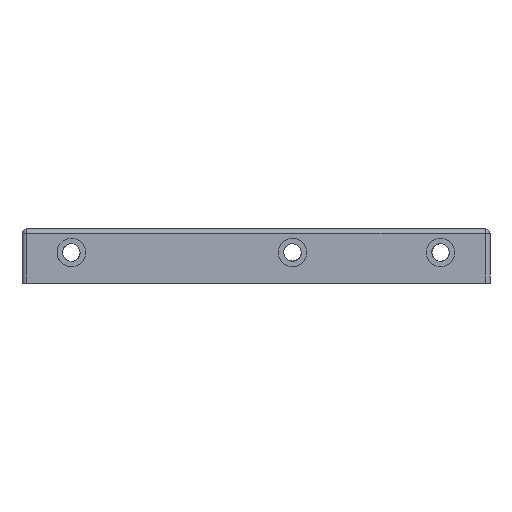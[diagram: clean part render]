
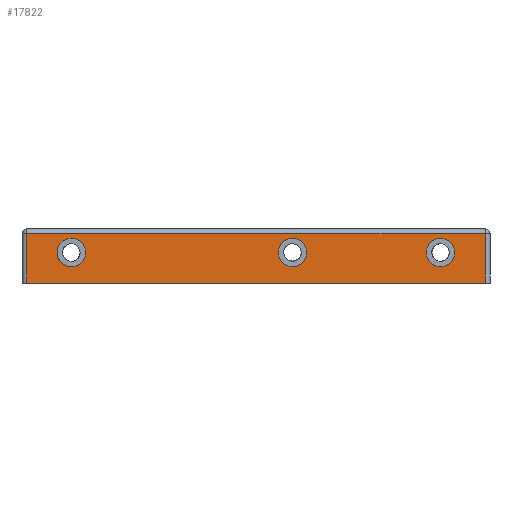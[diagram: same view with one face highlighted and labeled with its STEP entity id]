
A CAD part, front view. The second image highlights one B-rep face of the part: STEP entity #17822.
In plain terms, the highlighted planar face has unit normal (0, -1, 0).
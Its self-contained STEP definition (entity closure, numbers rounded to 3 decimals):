
#341 = EDGE_CURVE ( 'NONE', #18369, #2659, #41709, .T. ) ;
#392 = CARTESIAN_POINT ( 'NONE',  ( 1226.064, 1236.778, -1.5 ) ) ;
#1895 = DIRECTION ( 'NONE',  ( 0., 1., 0. ) ) ;
#2071 = PLANE ( 'NONE',  #11692 ) ;
#2351 = CARTESIAN_POINT ( 'NONE',  ( 1240.064, 1236.778, -2.9 ) ) ;
#2618 = AXIS2_PLACEMENT_3D ( 'NONE', #7097, #17295, #7697 ) ;
#2659 = VERTEX_POINT ( 'NONE', #38973 ) ;
#2923 = CARTESIAN_POINT ( 'NONE',  ( 1370.064, 1236.778, -17. ) ) ;
#3004 = LINE ( 'NONE', #35906, #9703 ) ;
#3936 = CIRCLE ( 'NONE', #13281, 4.5 ) ;
#5185 = EDGE_LOOP ( 'NONE', ( #14772, #9771, #19480, #28930 ) ) ;
#5451 = CIRCLE ( 'NONE', #40383, 4.5 ) ;
#5649 = FACE_BOUND ( 'NONE', #33309, .T. ) ;
#6291 = ORIENTED_EDGE ( 'NONE', *, *, #22709, .T. ) ;
#6331 = EDGE_CURVE ( 'NONE', #10275, #10275, #5451, .T. ) ;
#7097 = CARTESIAN_POINT ( 'NONE',  ( 1356.064, 1236.778, -7.4 ) ) ;
#7697 = DIRECTION ( 'NONE',  ( 0., 0., 1. ) ) ;
#8697 = VECTOR ( 'NONE', #34774, 1000. ) ;
#8982 = DIRECTION ( 'NONE',  ( 0., 0., -1. ) ) ;
#9703 = VECTOR ( 'NONE', #36051, 1000. ) ;
#9771 = ORIENTED_EDGE ( 'NONE', *, *, #11172, .T. ) ;
#10275 = VERTEX_POINT ( 'NONE', #42127 ) ;
#11172 = EDGE_CURVE ( 'NONE', #12165, #20414, #26910, .T. ) ;
#11692 = AXIS2_PLACEMENT_3D ( 'NONE', #41848, #32512, #8982 ) ;
#12165 = VERTEX_POINT ( 'NONE', #19137 ) ;
#12643 = ORIENTED_EDGE ( 'NONE', *, *, #6331, .T. ) ;
#12965 = EDGE_CURVE ( 'NONE', #27453, #27453, #3936, .T. ) ;
#13281 = AXIS2_PLACEMENT_3D ( 'NONE', #30356, #30213, #30061 ) ;
#14014 = EDGE_LOOP ( 'NONE', ( #6291 ) ) ;
#14510 = VECTOR ( 'NONE', #28951, 1000. ) ;
#14772 = ORIENTED_EDGE ( 'NONE', *, *, #18753, .T. ) ;
#14940 = DIRECTION ( 'NONE',  ( 0., 0., -1. ) ) ;
#15411 = CARTESIAN_POINT ( 'NONE',  ( 1356.064, 1236.778, -2.9 ) ) ;
#17295 = DIRECTION ( 'NONE',  ( 0., 1., 0. ) ) ;
#17822 = ADVANCED_FACE ( 'NONE', ( #25881, #5649, #20677, #26898 ), #2071, .T. ) ;
#18117 = CARTESIAN_POINT ( 'NONE',  ( 1309.564, 1236.778, -7.4 ) ) ;
#18369 = VERTEX_POINT ( 'NONE', #392 ) ;
#18625 = EDGE_CURVE ( 'NONE', #20414, #2659, #20089, .T. ) ;
#18753 = EDGE_CURVE ( 'NONE', #18369, #12165, #3004, .T. ) ;
#19137 = CARTESIAN_POINT ( 'NONE',  ( 1226.064, 1236.778, -17. ) ) ;
#19480 = ORIENTED_EDGE ( 'NONE', *, *, #18625, .T. ) ;
#20089 = LINE ( 'NONE', #38111, #8697 ) ;
#20414 = VERTEX_POINT ( 'NONE', #2923 ) ;
#20677 = FACE_BOUND ( 'NONE', #38344, .T. ) ;
#22274 = VERTEX_POINT ( 'NONE', #15411 ) ;
#22709 = EDGE_CURVE ( 'NONE', #22274, #22274, #40863, .T. ) ;
#23226 = CARTESIAN_POINT ( 'NONE',  ( 1284.564, 1236.778, -1.5 ) ) ;
#25881 = FACE_BOUND ( 'NONE', #14014, .T. ) ;
#26681 = DIRECTION ( 'NONE',  ( 1., 0., 0. ) ) ;
#26898 = FACE_OUTER_BOUND ( 'NONE', #5185, .T. ) ;
#26910 = LINE ( 'NONE', #42480, #14510 ) ;
#27453 = VERTEX_POINT ( 'NONE', #2351 ) ;
#28930 = ORIENTED_EDGE ( 'NONE', *, *, #341, .F. ) ;
#28951 = DIRECTION ( 'NONE',  ( 1., 0., 0. ) ) ;
#29921 = ORIENTED_EDGE ( 'NONE', *, *, #12965, .T. ) ;
#30061 = DIRECTION ( 'NONE',  ( 0., 0., 1. ) ) ;
#30213 = DIRECTION ( 'NONE',  ( 0., 1., 0. ) ) ;
#30356 = CARTESIAN_POINT ( 'NONE',  ( 1240.064, 1236.778, -7.4 ) ) ;
#32512 = DIRECTION ( 'NONE',  ( 0., -1., 0. ) ) ;
#32814 = VECTOR ( 'NONE', #26681, 1000. ) ;
#33309 = EDGE_LOOP ( 'NONE', ( #29921 ) ) ;
#34774 = DIRECTION ( 'NONE',  ( 0., 0., 1. ) ) ;
#35906 = CARTESIAN_POINT ( 'NONE',  ( 1226.064, 1236.778, -17. ) ) ;
#36051 = DIRECTION ( 'NONE',  ( 0., 0., -1. ) ) ;
#38111 = CARTESIAN_POINT ( 'NONE',  ( 1370.064, 1236.778, -17. ) ) ;
#38344 = EDGE_LOOP ( 'NONE', ( #12643 ) ) ;
#38973 = CARTESIAN_POINT ( 'NONE',  ( 1370.064, 1236.778, -1.5 ) ) ;
#40383 = AXIS2_PLACEMENT_3D ( 'NONE', #18117, #1895, #14940 ) ;
#40863 = CIRCLE ( 'NONE', #2618, 4.5 ) ;
#41709 = LINE ( 'NONE', #23226, #32814 ) ;
#41848 = CARTESIAN_POINT ( 'NONE',  ( 1344.564, 1236.778, -17. ) ) ;
#42127 = CARTESIAN_POINT ( 'NONE',  ( 1309.564, 1236.778, -11.9 ) ) ;
#42480 = CARTESIAN_POINT ( 'NONE',  ( 1284.564, 1236.778, -17. ) ) ;
